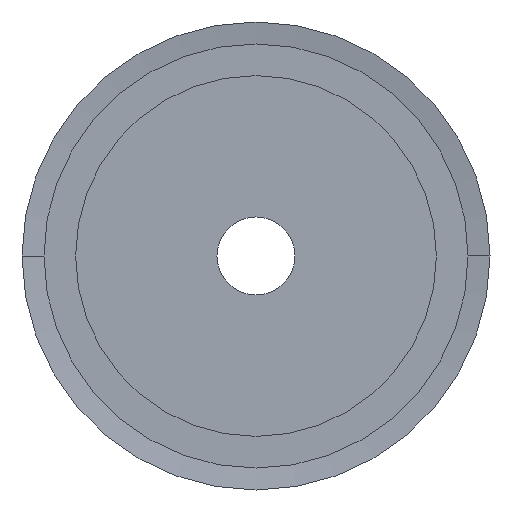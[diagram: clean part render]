
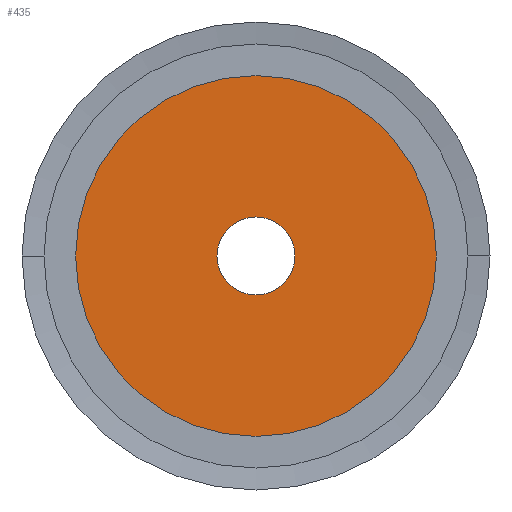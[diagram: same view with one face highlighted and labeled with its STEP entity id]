
A CAD part, left-side view. The second image highlights one B-rep face of the part: STEP entity #435.
In plain terms, the highlighted planar face has unit normal (-1, 0, 0).
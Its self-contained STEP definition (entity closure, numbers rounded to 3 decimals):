
#435 = ADVANCED_FACE( '', ( #1161, #1162 ), #1163, .T. );
#1161 = FACE_BOUND( '', #1888, .T. );
#1162 = FACE_OUTER_BOUND( '', #1889, .T. );
#1163 = PLANE( '', #1890 );
#1888 = EDGE_LOOP( '', ( #4863, #4864 ) );
#1889 = EDGE_LOOP( '', ( #4865, #4866 ) );
#1890 = AXIS2_PLACEMENT_3D( '', #4867, #4868, #4869 );
#4863 = ORIENTED_EDGE( '', *, *, #4965, .T. );
#4864 = ORIENTED_EDGE( '', *, *, #4961, .T. );
#4865 = ORIENTED_EDGE( '', *, *, #4873, .T. );
#4866 = ORIENTED_EDGE( '', *, *, #5817, .T. );
#4867 = CARTESIAN_POINT( '', ( 0., 9.25, 0. ) );
#4868 = DIRECTION( '', ( -1., 0., 0. ) );
#4869 = DIRECTION( '', ( 0., 1., 0. ) );
#4873 = EDGE_CURVE( '', #5819, #5823, #5825, .T. );
#4961 = EDGE_CURVE( '', #5995, #5992, #5996, .T. );
#4965 = EDGE_CURVE( '', #5992, #5995, #6001, .T. );
#5817 = EDGE_CURVE( '', #5823, #5819, #7357, .T. );
#5819 = VERTEX_POINT( '', #7359 );
#5823 = VERTEX_POINT( '', #7364 );
#5825 = CIRCLE( '', #7367, 18.5 );
#5992 = VERTEX_POINT( '', #7550 );
#5995 = VERTEX_POINT( '', #7554 );
#5996 = CIRCLE( '', #7555, 4. );
#6001 = CIRCLE( '', #7561, 4. );
#7357 = CIRCLE( '', #9309, 18.5 );
#7359 = CARTESIAN_POINT( '', ( 0., 18.5, 0. ) );
#7364 = CARTESIAN_POINT( '', ( 0., -18.5, 0. ) );
#7367 = AXIS2_PLACEMENT_3D( '', #9315, #9316, #9317 );
#7550 = CARTESIAN_POINT( '', ( 0., 4., 0. ) );
#7554 = CARTESIAN_POINT( '', ( 0., -4., 0. ) );
#7555 = AXIS2_PLACEMENT_3D( '', #9545, #9546, #9547 );
#7561 = AXIS2_PLACEMENT_3D( '', #9555, #9556, #9557 );
#9309 = AXIS2_PLACEMENT_3D( '', #11327, #11328, #11329 );
#9315 = CARTESIAN_POINT( '', ( 0., 0., 0. ) );
#9316 = DIRECTION( '', ( -1., 0., 0. ) );
#9317 = DIRECTION( '', ( 0., 1., 0. ) );
#9545 = CARTESIAN_POINT( '', ( 0., 0., 0. ) );
#9546 = DIRECTION( '', ( 1., 0., 0. ) );
#9547 = DIRECTION( '', ( 0., 1., 0. ) );
#9555 = CARTESIAN_POINT( '', ( 0., 0., 0. ) );
#9556 = DIRECTION( '', ( 1., 0., 0. ) );
#9557 = DIRECTION( '', ( 0., 1., 0. ) );
#11327 = CARTESIAN_POINT( '', ( 0., 0., 0. ) );
#11328 = DIRECTION( '', ( -1., 0., 0. ) );
#11329 = DIRECTION( '', ( 0., 1., 0. ) );
